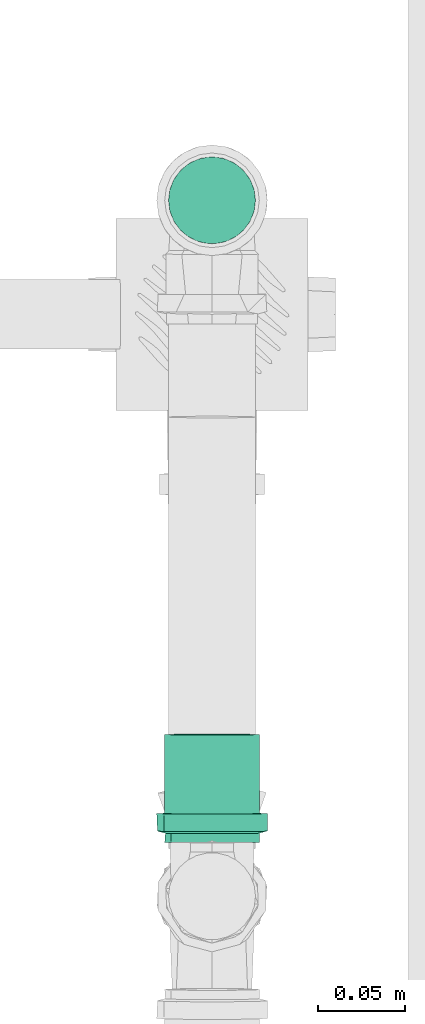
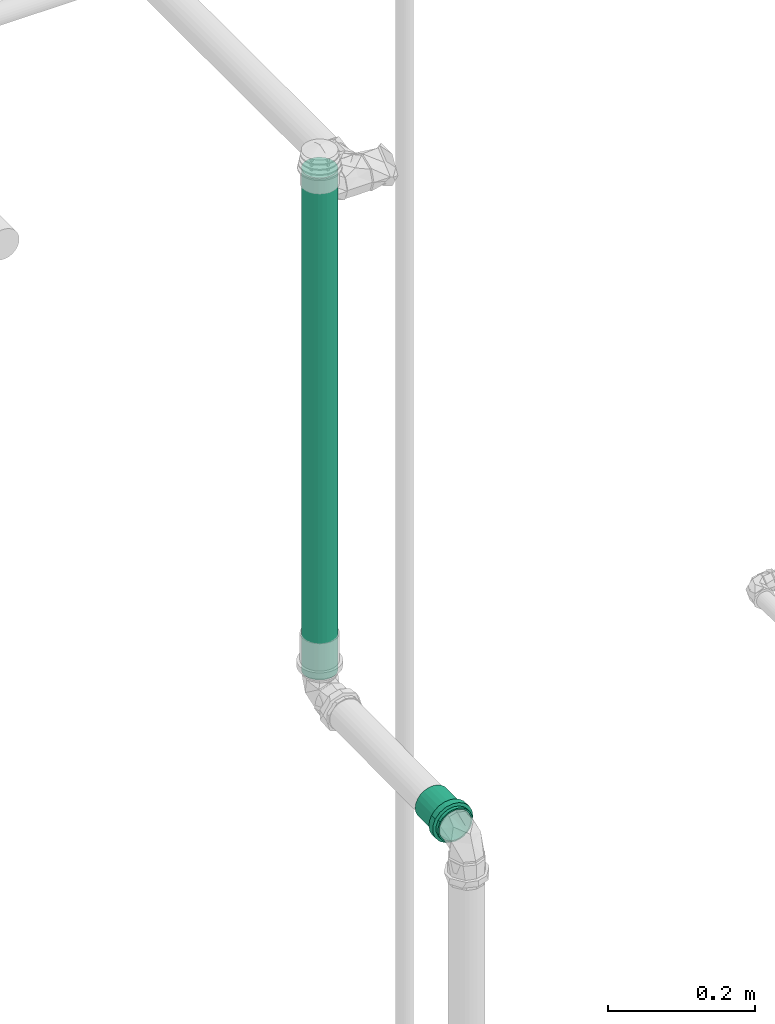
# One storey, part 41 of 589: 1 flow fitting, 1 flow segment.
"""IFC2X3 building model written with IfcOpenShell, lengths in millimetres."""

from ifc_helpers import new_model, entity, si_unit, converted_unit, derived_unit, direction, frame, origin, origin_2d_with_axis, place, context, subcontext, project, spatial, circle, extrude, faceted_brep, source, transform, mapped, material, type_object, type_shapes, element, save


model = new_model("IFC2X3")

# Units and contexts
model_context = context("Model", 3, precision=0.01, world=origin(), true_north=direction((6.123031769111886e-17, 1.0)))
body_context = subcontext(model_context, "Body", "Model", "MODEL_VIEW")
ifc_project = project(units=[si_unit("LENGTHUNIT", "METRE", prefix="MILLI"), si_unit("AREAUNIT", "SQUARE_METRE"), si_unit("VOLUMEUNIT", "CUBIC_METRE"), converted_unit("PLANEANGLEUNIT", "DEGREE", entity("IfcRatioMeasure", 0.017453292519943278), si_unit("PLANEANGLEUNIT", "RADIAN"), dimensions=[0, 0, 0, 0, 0, 0, 0]), si_unit("MASSUNIT", "GRAM", prefix="KILO"), derived_unit("MASSDENSITYUNIT", [(si_unit("MASSUNIT", "GRAM", prefix="KILO"), 1), (si_unit("LENGTHUNIT", "METRE"), -3)]), derived_unit("IONCONCENTRATIONUNIT", [(si_unit("MASSUNIT", "GRAM", prefix="KILO"), 1), (si_unit("LENGTHUNIT", "METRE"), -3)]), derived_unit("MOMENTOFINERTIAUNIT", [(si_unit("LENGTHUNIT", "METRE"), 4)]), si_unit("TIMEUNIT", "SECOND"), si_unit("FREQUENCYUNIT", "HERTZ"), si_unit("THERMODYNAMICTEMPERATUREUNIT", "DEGREE_CELSIUS"), derived_unit("THERMALTRANSMITTANCEUNIT", [(si_unit("MASSUNIT", "GRAM", prefix="KILO"), 1), (si_unit("THERMODYNAMICTEMPERATUREUNIT", "KELVIN"), -1), (si_unit("TIMEUNIT", "SECOND"), -3)]), derived_unit("THERMALCONDUCTANCEUNIT", [(si_unit("MASSUNIT", "GRAM", prefix="KILO"), 1), (si_unit("THERMODYNAMICTEMPERATUREUNIT", "KELVIN"), -1), (si_unit("TIMEUNIT", "SECOND"), -3), (si_unit("LENGTHUNIT", "METRE"), 1)]), derived_unit("VOLUMETRICFLOWRATEUNIT", [(si_unit("LENGTHUNIT", "METRE"), 3), (si_unit("TIMEUNIT", "SECOND"), -1)]), derived_unit("MASSFLOWRATEUNIT", [(si_unit("MASSUNIT", "GRAM", prefix="KILO"), 1), (si_unit("TIMEUNIT", "SECOND"), -1)]), derived_unit("ROTATIONALFREQUENCYUNIT", [(si_unit("TIMEUNIT", "SECOND"), -1)]), si_unit("ELECTRICCURRENTUNIT", "AMPERE"), si_unit("ELECTRICVOLTAGEUNIT", "VOLT"), si_unit("POWERUNIT", "WATT"), si_unit("FORCEUNIT", "NEWTON", prefix="KILO"), si_unit("ILLUMINANCEUNIT", "LUX"), si_unit("LUMINOUSFLUXUNIT", "LUMEN"), si_unit("LUMINOUSINTENSITYUNIT", "CANDELA"), derived_unit("USERDEFINED", [(si_unit("MASSUNIT", "GRAM", prefix="KILO"), -1), (si_unit("LENGTHUNIT", "METRE"), -2), (si_unit("TIMEUNIT", "SECOND"), 3), (si_unit("LUMINOUSFLUXUNIT", "LUMEN"), 1)]), derived_unit("USERDEFINED", [(si_unit("MASSUNIT", "GRAM", prefix="KILO"), 1), (si_unit("TIMEUNIT", "SECOND"), -3), (si_unit("LENGTHUNIT", "METRE"), 3), (si_unit("ELECTRICCURRENTUNIT", "AMPERE"), -2)]), derived_unit("SOUNDPOWERUNIT", [(si_unit("MASSUNIT", "GRAM", prefix="KILO"), 1), (si_unit("TIMEUNIT", "SECOND"), -3), (si_unit("LENGTHUNIT", "METRE"), 2)]), derived_unit("SOUNDPRESSUREUNIT", [(si_unit("MASSUNIT", "GRAM", prefix="KILO"), 1), (si_unit("LENGTHUNIT", "METRE"), -1), (si_unit("TIMEUNIT", "SECOND"), -2)]), derived_unit("LINEARVELOCITYUNIT", [(si_unit("LENGTHUNIT", "METRE"), 1), (si_unit("TIMEUNIT", "SECOND"), -1)]), si_unit("PRESSUREUNIT", "PASCAL"), derived_unit("USERDEFINED", [(si_unit("MASSUNIT", "GRAM", prefix="KILO"), 1), (si_unit("LENGTHUNIT", "METRE"), -2), (si_unit("TIMEUNIT", "SECOND"), -2)]), derived_unit("LINEARFORCEUNIT", [(si_unit("MASSUNIT", "GRAM", prefix="KILO"), 1), (si_unit("TIMEUNIT", "SECOND"), -2)]), derived_unit("PLANARFORCEUNIT", [(si_unit("MASSUNIT", "GRAM", prefix="KILO"), 1), (si_unit("LENGTHUNIT", "METRE"), -1), (si_unit("TIMEUNIT", "SECOND"), -2)]), derived_unit("SPECIFICHEATCAPACITYUNIT", [(si_unit("THERMODYNAMICTEMPERATUREUNIT", "KELVIN"), -1), (si_unit("LENGTHUNIT", "METRE"), 2), (si_unit("TIMEUNIT", "SECOND"), -2)]), derived_unit("HEATINGVALUEUNIT", [(si_unit("LENGTHUNIT", "METRE"), 2), (si_unit("TIMEUNIT", "SECOND"), -2)]), derived_unit("VAPORPERMEABILITYUNIT", [(si_unit("LENGTHUNIT", "METRE"), -1), (si_unit("TIMEUNIT", "SECOND"), 1)]), derived_unit("DYNAMICVISCOSITYUNIT", [(si_unit("MASSUNIT", "GRAM", prefix="KILO"), 1), (si_unit("TIMEUNIT", "SECOND"), -1), (si_unit("LENGTHUNIT", "METRE"), -1)]), derived_unit("THERMALEXPANSIONCOEFFICIENTUNIT", [(si_unit("THERMODYNAMICTEMPERATUREUNIT", "KELVIN"), -1)]), derived_unit("MODULUSOFELASTICITYUNIT", [(si_unit("MASSUNIT", "GRAM", prefix="KILO"), 1), (si_unit("LENGTHUNIT", "METRE"), -1), (si_unit("TIMEUNIT", "SECOND"), -2)]), derived_unit("ISOTHERMALMOISTURECAPACITYUNIT", [(si_unit("LENGTHUNIT", "METRE"), 3), (si_unit("MASSUNIT", "GRAM", prefix="KILO"), -1)]), derived_unit("MOISTUREDIFFUSIVITYUNIT", [(si_unit("TIMEUNIT", "SECOND"), -1), (si_unit("LENGTHUNIT", "METRE"), 2)])], contexts=[model_context])

# Site, building, storey
site_placement = place(None, origin())
site = spatial("IfcSite", under=ifc_project, at=site_placement, Name="Default", CompositionType="ELEMENT")
building_placement = place(site_placement, origin())
building = spatial("IfcBuilding", under=site, at=building_placement, CompositionType="ELEMENT")
storey_placement = place(building_placement, frame((0.0, 0.0, 100.0)))
storey = spatial("IfcBuildingStorey", under=building, at=storey_placement, Name="TÉRREO", CompositionType="ELEMENT", Elevation=100.0)

# Flow segment
pipe_segment_type = type_object("IfcPipeSegmentType", Name="Tipos de tubos:PVC Esgoto Série Normal", PredefinedType="NOTDEFINED")
flow_segment_placement = place(storey_placement, origin())
element("IfcFlowSegment", 1, at=flow_segment_placement, inside=storey, type_object=pipe_segment_type, Name="Tipos de tubos:PVC Esgoto Série Normal", ObjectType="Tipos de tubos:PVC Esgoto Série Normal", context=body_context, shape_type="SweptSolid", body=[
    extrude(circle(Radius=25.0, at=origin_2d_with_axis()), frame((1855.1564123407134, -9657.272915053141, 3011.6345858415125), z_axis=(0.0, 0.0, 1.0), x_axis=(-1.0, 0.0, 0.0)), (0.0, 0.0, 1.0), 834.5587000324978),
])

# Flow fitting
ifc_material = material(Name="PVC Série Normal")
pipe_fitting_type = type_object("IfcPipeFittingType", Name="PVC Esgoto_Luva Simples para Conexão_Rodrigo MEP:Standard", PredefinedType="NOTDEFINED", material=ifc_material)
shared_shape = source(origin(), body_context, "Body", "Brep", [
    faceted_brep([(16.599999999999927, -13.599999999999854, -23.555890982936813), (16.599999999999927, -22.485995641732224, -22.485995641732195), (16.599999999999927, -15.900000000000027, -27.53960784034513), (16.599999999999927, -19.233304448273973, -19.233304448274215), (16.599999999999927, -7.039878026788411, -26.273182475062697), (16.599999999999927, -27.539607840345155, -15.899999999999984), (16.599999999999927, -23.55589098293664, -13.600000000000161), (16.599999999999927, -26.273182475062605, -7.03987802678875), (16.599999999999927, -30.716441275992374, -8.230445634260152), (16.599999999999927, -27.2, 0.0), (16.599999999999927, -31.8, 0.0), (16.599999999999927, -26.273182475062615, 7.0398780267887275), (16.599999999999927, -30.71644127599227, 8.23044563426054), (16.599999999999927, -23.555890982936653, 13.60000000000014), (16.599999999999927, -27.539607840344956, 15.900000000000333), (16.599999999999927, -19.233304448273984, 19.2333044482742), (16.599999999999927, -22.485995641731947, 22.48599564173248), (16.599999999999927, -13.599999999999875, 23.555890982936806), (16.599999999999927, -15.899999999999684, 27.53960784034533), (16.599999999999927, -7.039878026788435, 26.27318247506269), (16.599999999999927, -8.230445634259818, 30.716441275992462), (16.599999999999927, 0.0, 27.2), (16.599999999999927, 0.0, 31.8), (16.599999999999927, 7.039878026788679, 26.273182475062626), (16.599999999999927, 8.230445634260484, 30.716441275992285), (16.599999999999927, 13.600000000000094, 23.555890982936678), (16.599999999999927, 15.900000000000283, 27.53960784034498), (16.599999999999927, 19.23330444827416, 19.233304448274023), (16.599999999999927, 22.485995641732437, 22.48599564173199), (16.599999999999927, 23.55589098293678, 13.59999999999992), (16.599999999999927, 27.539607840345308, 15.899999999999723), (16.599999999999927, 30.71644127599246, 8.230445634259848), (16.599999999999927, 26.273182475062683, 7.039878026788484), (16.599999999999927, 31.8, 0.0), (16.599999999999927, 27.2, 0.0), (16.599999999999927, 30.71644127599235, -8.23044563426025), (16.599999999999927, 26.273182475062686, -7.03987802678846), (16.599999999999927, 27.53960784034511, -15.90000000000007), (16.599999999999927, 23.55589098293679, -13.599999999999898), (16.599999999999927, 22.485995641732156, -22.485995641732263), (16.599999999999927, 19.233304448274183, -19.233304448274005), (16.599999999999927, 15.899999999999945, -27.53960784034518), (16.599999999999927, 13.600000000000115, -23.555890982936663), (16.599999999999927, 8.230445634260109, -30.716441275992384), (16.599999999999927, 7.039878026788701, -26.273182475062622), (16.599999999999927, 0.0, -31.8), (16.599999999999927, 0.0, -27.2), (16.599999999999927, -8.2304456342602, -30.71644127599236), (6.5000000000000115, 31.8, 0.0), (6.500000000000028, 30.243828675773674, 9.826028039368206), (6.500000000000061, 18.6933889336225, 25.72541953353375), (6.500000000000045, 25.727620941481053, 18.69035903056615), (6.500000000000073, 9.829589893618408, 30.24267122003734), (6.50000000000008, 0.0037451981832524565, 31.799999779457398), (6.5000000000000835, -9.822466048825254, 30.244985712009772), (6.500000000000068, -25.723217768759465, 18.696418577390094), (6.50000000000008, -18.687328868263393, 25.729821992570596), (6.50000000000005, -30.24167131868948, 9.832665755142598), (6.5000000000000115, -31.8, 0.0), (6.499999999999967, -24.364200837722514, -20.435892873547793), (6.499999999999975, -27.12442527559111, -15.652735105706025), (6.499999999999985, -29.884649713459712, -10.869577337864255), (6.499999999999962, -20.134403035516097, -23.986420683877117), (6.4999999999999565, -15.904605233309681, -27.53694849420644), (6.499999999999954, -10.715490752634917, -29.42653259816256), (6.499999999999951, -5.526376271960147, -31.31611670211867), (6.499999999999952, -0.003927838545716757, -31.316809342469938), (6.499999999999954, 5.518520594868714, -31.317501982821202), (6.499999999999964, 15.897697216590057, -27.54093722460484), (6.499999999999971, 20.128385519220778, -23.99147055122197), (6.499999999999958, 10.70810890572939, -29.42921960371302), (6.499999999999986, 27.12049800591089, -15.659538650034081), (6.499999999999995, 29.881922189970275, -10.877073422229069), (6.499999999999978, 24.359073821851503, -20.442003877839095), (6.499999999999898, 30.69617385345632, -6.259599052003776), (6.500000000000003, 30.84096109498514, -5.438536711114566), (62.0, -12.499999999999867, -21.650635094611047), (62.0, -19.233304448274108, -19.23330444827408), (62.0, -13.600000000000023, -23.55589098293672), (62.0, -6.470476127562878, -24.14814565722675), (62.0, -17.677669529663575, -17.677669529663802), (62.0, -23.55589098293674, -13.599999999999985), (62.0, -21.65063509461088, -12.50000000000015), (62.0, -24.148145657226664, -6.470476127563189), (62.0, -26.27318247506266, -7.039878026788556), (62.0, -25.0, 0.0), (62.0, -27.2, 0.0), (62.0, -24.148145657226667, 6.4704761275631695), (62.0, -26.273182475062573, 7.03987802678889), (62.0, -21.650635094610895, 12.500000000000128), (62.0, -23.555890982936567, 13.600000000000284), (62.0, -17.67766952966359, 17.67766952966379), (62.0, -19.233304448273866, 19.233304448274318), (62.0, -12.499999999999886, 21.650635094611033), (62.0, -13.59999999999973, 23.55589098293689), (62.0, -6.4704761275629, 24.14814565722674), (62.0, -7.039878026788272, 26.273182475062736), (62.0, 0.0, 25.0), (62.0, 0.0, 27.2), (62.0, 6.470476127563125, 24.148145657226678), (62.0, 7.039878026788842, 26.273182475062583), (62.0, 12.500000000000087, 21.650635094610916), (62.0, 13.600000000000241, 23.555890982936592), (62.0, 17.677669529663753, 17.677669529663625), (62.0, 19.233304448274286, 19.2333044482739), (62.0, 21.65063509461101, 12.499999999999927), (62.0, 23.555890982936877, 13.599999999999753), (62.0, 26.27318247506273, 7.039878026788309), (62.0, 24.14814565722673, 6.470476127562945), (62.0, 27.2, 0.0), (62.0, 25.0, 0.0), (62.0, 26.27318247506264, -7.0398780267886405), (62.0, 24.148145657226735, -6.470476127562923), (62.0, 23.5558909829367, -13.600000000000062), (62.0, 21.650635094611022, -12.499999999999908), (62.0, 19.233304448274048, -19.233304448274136), (62.0, 17.67766952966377, -17.677669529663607), (62.0, 13.599999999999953, -23.555890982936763), (62.0, 12.500000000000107, -21.650635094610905), (62.0, 7.039878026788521, -26.27318247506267), (62.0, 6.470476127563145, -24.148145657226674), (62.0, 0.0, -27.2), (62.0, 0.0, -25.0), (62.0, -7.039878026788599, -26.273182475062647), (0.0, -13.600000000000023, -23.55589098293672), (0.0, -19.233304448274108, -19.23330444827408), (0.0, -12.499999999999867, -21.650635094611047), (0.0, -6.470476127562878, -24.14814565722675), (0.0, -7.039878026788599, -26.273182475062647), (0.0, -17.677669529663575, -17.677669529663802), (0.0, -23.55589098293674, -13.599999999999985), (0.0, -21.65063509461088, -12.50000000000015), (0.0, -24.148145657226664, -6.470476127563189), (0.0, -26.27318247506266, -7.039878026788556), (0.0, -25.0, 0.0), (0.0, -27.2, 0.0), (0.0, -24.148145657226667, 6.4704761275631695), (0.0, -26.273182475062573, 7.03987802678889), (0.0, -21.650635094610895, 12.500000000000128), (0.0, -23.555890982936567, 13.600000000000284), (0.0, -17.67766952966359, 17.67766952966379), (0.0, -19.233304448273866, 19.233304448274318), (0.0, -12.499999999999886, 21.650635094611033), (0.0, -13.59999999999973, 23.55589098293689), (0.0, -6.4704761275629, 24.14814565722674), (0.0, -7.039878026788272, 26.273182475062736), (0.0, 0.0, 25.0), (0.0, 0.0, 27.2), (0.0, 6.470476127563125, 24.148145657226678), (0.0, 7.039878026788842, 26.273182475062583), (0.0, 12.500000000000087, 21.650635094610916), (0.0, 13.600000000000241, 23.555890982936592), (0.0, 17.677669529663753, 17.677669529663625), (0.0, 19.233304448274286, 19.2333044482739), (0.0, 21.65063509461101, 12.499999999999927), (0.0, 23.555890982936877, 13.599999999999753), (0.0, 26.27318247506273, 7.039878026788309), (0.0, 24.14814565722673, 6.470476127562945), (0.0, 27.2, 0.0), (0.0, 25.0, 0.0), (0.0, 26.27318247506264, -7.0398780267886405), (0.0, 24.148145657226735, -6.470476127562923), (0.0, 23.5558909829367, -13.600000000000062), (0.0, 21.650635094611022, -12.499999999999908), (0.0, 19.233304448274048, -19.233304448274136), (0.0, 17.67766952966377, -17.677669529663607), (0.0, 13.599999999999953, -23.555890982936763), (0.0, 12.500000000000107, -21.650635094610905), (0.0, 7.039878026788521, -26.27318247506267), (0.0, 6.470476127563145, -24.148145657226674), (0.0, 0.0, -27.2), (0.0, 0.0, -25.0), (5.299999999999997, 27.2, 0.0), (5.300000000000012, 25.868346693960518, 8.406464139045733), (5.300000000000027, 22.003776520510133, 15.989803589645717), (5.30000000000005, 8.400454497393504, 25.870298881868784), (5.300000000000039, 15.9846915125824, 22.007490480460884), (5.300000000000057, -0.00631876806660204, 27.199999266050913), (5.30000000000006, -8.412473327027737, 25.866393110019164), (5.3000000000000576, -15.99491480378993, 22.00006137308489), (5.300000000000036, -25.8722496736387, 8.394444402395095), (5.30000000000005, -22.011203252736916, 15.97957857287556), (5.299999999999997, -27.2, 0.0), (5.299999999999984, -25.56171296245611, -9.29724854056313), (5.2999999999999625, -17.22187932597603, -20.516686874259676), (5.299999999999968, -20.839819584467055, -17.47975742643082), (5.299999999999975, -23.200766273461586, -13.388502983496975), (5.2999999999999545, -9.165451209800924, -25.169864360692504), (5.299999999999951, -4.726963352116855, -26.78611239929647), (5.299999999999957, -13.603939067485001, -23.553616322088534), (5.29999999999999, 26.379689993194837, -4.651830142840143), (5.299999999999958, 13.5980303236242, -23.55702806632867), (5.299999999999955, 9.159137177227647, -25.17216267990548), (5.299999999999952, 4.720244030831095, -26.787297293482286), (5.299999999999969, 20.83543421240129, -17.484984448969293), (5.299999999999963, 17.216732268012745, -20.52100625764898), (5.299999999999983, 25.559379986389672, -9.303660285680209), (5.299999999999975, 23.197407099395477, -13.394322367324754), (5.299999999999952, -0.0033596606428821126, -26.78670484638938), (39.0, 25.0, 0.0), (39.0, -25.0, 0.0)], [[[0, 1, 2]], [[3, 1, 0]], [[4, 0, 2]], [[1, 3, 5]], [[5, 3, 6]], [[5, 6, 7]], [[8, 5, 7]], [[9, 8, 7]], [[10, 8, 9]], [[10, 9, 11]], [[12, 10, 11]], [[12, 11, 13]], [[14, 12, 13]], [[14, 13, 15]], [[15, 16, 14]], [[15, 17, 16]], [[17, 18, 16]], [[19, 18, 17]], [[18, 19, 20]], [[21, 20, 19]], [[22, 20, 21]], [[23, 22, 21]], [[24, 22, 23]], [[25, 24, 23]], [[24, 25, 26]], [[25, 27, 26]], [[28, 26, 27]], [[28, 27, 29]], [[28, 29, 30]], [[30, 29, 31]], [[31, 29, 32]], [[33, 31, 32]], [[33, 32, 34]], [[33, 34, 35]], [[34, 36, 35]], [[37, 35, 36]], [[37, 36, 38]], [[39, 37, 38]], [[40, 39, 38]], [[40, 41, 39]], [[42, 41, 40]], [[43, 41, 42]], [[42, 44, 43]], [[43, 44, 45]], [[44, 46, 45]], [[46, 4, 47]], [[45, 46, 47]], [[2, 47, 4]], [[33, 48, 31]], [[31, 49, 30]], [[26, 28, 50]], [[51, 28, 30]], [[24, 26, 52]], [[49, 51, 30]], [[31, 48, 49]], [[50, 52, 26]], [[28, 51, 50]], [[52, 53, 24]], [[53, 22, 24]], [[20, 53, 54]], [[20, 54, 18]], [[14, 16, 55]], [[56, 16, 18]], [[12, 14, 57]], [[56, 55, 16]], [[18, 54, 56]], [[57, 58, 12]], [[14, 55, 57]], [[58, 10, 12]], [[22, 53, 20]], [[8, 10, 58]], [[59, 1, 5]], [[60, 59, 5, 61]], [[2, 62, 63]], [[8, 58, 61]], [[2, 63, 64]], [[47, 2, 64]], [[64, 65, 47]], [[62, 1, 59]], [[66, 67, 45, 65]], [[41, 68, 69]], [[1, 62, 2]], [[39, 41, 69]], [[8, 61, 5]], [[43, 45, 67]], [[68, 41, 70]], [[71, 72, 37, 73]], [[43, 70, 41]], [[72, 35, 37]], [[69, 73, 39]], [[70, 43, 67]], [[47, 65, 45]], [[39, 73, 37]], [[35, 72, 74, 75]], [[33, 75, 48]], [[35, 75, 33]], [[76, 77, 78]], [[79, 76, 78]], [[80, 77, 76]], [[77, 80, 81]], [[82, 81, 80]], [[83, 81, 82]], [[81, 83, 84]], [[83, 85, 84]], [[86, 84, 85]], [[86, 85, 87]], [[87, 88, 86]], [[89, 88, 87]], [[88, 89, 90]], [[91, 90, 89]], [[92, 90, 91]], [[92, 91, 93]], [[93, 94, 92]], [[95, 94, 93]], [[94, 95, 96]], [[97, 96, 95]], [[98, 96, 97]], [[99, 98, 97]], [[100, 98, 99]], [[101, 100, 99]], [[100, 101, 102]], [[101, 103, 102]], [[104, 102, 103]], [[103, 105, 104]], [[104, 105, 106]], [[107, 106, 105]], [[105, 108, 107]], [[107, 108, 109]], [[108, 110, 109]], [[109, 110, 111]], [[110, 112, 111]], [[113, 111, 112]], [[112, 114, 113]], [[115, 113, 114]], [[116, 115, 114]], [[116, 117, 115]], [[118, 117, 116]], [[119, 117, 118]], [[118, 120, 119]], [[119, 120, 121]], [[120, 122, 121]], [[122, 79, 123]], [[121, 122, 123]], [[78, 123, 79]], [[124, 125, 126]], [[124, 126, 127]], [[127, 128, 124]], [[126, 125, 129]], [[130, 129, 125]], [[129, 130, 131]], [[131, 130, 132]], [[133, 132, 130]], [[133, 134, 132]], [[134, 133, 135]], [[136, 134, 135]], [[135, 137, 136]], [[136, 137, 138]], [[139, 138, 137]], [[138, 139, 140]], [[140, 139, 141]], [[142, 140, 141]], [[141, 143, 142]], [[142, 143, 144]], [[145, 144, 143]], [[144, 145, 146]], [[146, 145, 147]], [[146, 147, 148]], [[148, 147, 149]], [[148, 149, 150]], [[151, 150, 149]], [[151, 152, 150]], [[152, 151, 153]], [[153, 154, 152]], [[155, 154, 153]], [[154, 155, 156]], [[156, 157, 154]], [[158, 157, 156]], [[158, 159, 157]], [[160, 159, 158]], [[160, 161, 159]], [[161, 160, 162]], [[162, 163, 161]], [[163, 162, 164]], [[163, 164, 165]], [[164, 166, 165]], [[165, 166, 167]], [[167, 166, 168]], [[168, 169, 167]], [[170, 169, 168]], [[128, 171, 170]], [[170, 171, 169]], [[128, 127, 171]], [[172, 156, 173]], [[173, 155, 174]], [[175, 176, 151]], [[175, 149, 177]], [[153, 176, 174]], [[177, 149, 147]], [[156, 155, 173]], [[172, 158, 156]], [[32, 107, 109, 34]], [[153, 151, 176]], [[174, 155, 153]], [[151, 149, 175]], [[177, 145, 178]], [[178, 143, 179]], [[180, 181, 139]], [[141, 181, 179]], [[182, 180, 137]], [[143, 141, 179]], [[178, 145, 143]], [[139, 137, 180]], [[181, 141, 139]], [[137, 135, 182]], [[86, 88, 11, 9]], [[147, 145, 177]], [[183, 182, 133]], [[184, 185, 125]], [[186, 183, 130, 185]], [[187, 128, 188]], [[183, 133, 130]], [[182, 135, 133]], [[86, 9, 7, 84]], [[128, 187, 124]], [[124, 189, 184]], [[125, 185, 130]], [[160, 158, 190]], [[166, 191, 192]], [[187, 189, 124]], [[168, 166, 192]], [[188, 128, 170]], [[125, 124, 184]], [[192, 193, 168]], [[194, 195, 164]], [[190, 196, 160]], [[197, 194, 162, 196]], [[160, 196, 162]], [[164, 195, 166]], [[198, 188, 170, 193]], [[168, 193, 170]], [[194, 164, 162]], [[166, 195, 191]], [[158, 172, 190]], [[199, 110, 108, 157, 159]], [[103, 101, 150, 152]], [[152, 154, 105, 103]], [[154, 157, 108, 105]], [[148, 150, 101, 99]], [[99, 97, 146, 148]], [[144, 146, 97, 95]], [[93, 142, 144, 95]], [[89, 87, 136, 138]], [[138, 140, 91, 89]], [[140, 142, 93, 91]], [[200, 134, 136, 87, 85]], [[85, 83, 132, 134, 200]], [[80, 76, 126, 129]], [[132, 83, 82, 131]], [[80, 129, 131, 82]], [[127, 126, 76, 79]], [[79, 122, 171, 127]], [[169, 171, 122, 120]], [[118, 167, 169, 120]], [[114, 112, 161, 163]], [[163, 165, 116, 114]], [[165, 167, 118, 116]], [[199, 159, 161, 112, 110]], [[190, 172, 48, 75, 74, 72, 196]], [[197, 196, 72, 71, 73, 194]], [[195, 194, 73, 69, 68, 191]], [[68, 70, 67, 193, 192, 191]], [[66, 65, 188, 198, 193, 67]], [[63, 189, 187, 188, 65, 64]], [[58, 182, 183, 61]], [[59, 60, 61, 183, 186, 185]], [[63, 62, 59, 185, 184, 189]], [[57, 181, 180]], [[54, 177, 178]], [[56, 178, 179]], [[55, 179, 181]], [[58, 180, 182]], [[58, 57, 180]], [[181, 57, 55]], [[55, 56, 179]], [[56, 54, 178]], [[54, 53, 177]], [[52, 176, 175]], [[49, 172, 173]], [[51, 173, 174]], [[50, 174, 176]], [[52, 50, 176]], [[175, 53, 52]], [[50, 51, 174]], [[173, 51, 49]], [[172, 49, 48]], [[177, 53, 175]], [[106, 107, 32, 29]], [[102, 104, 27, 25]], [[27, 104, 106, 29]], [[100, 102, 25, 23]], [[23, 21, 98, 100]], [[94, 96, 19, 17]], [[94, 17, 15, 92]], [[88, 90, 13, 11]], [[13, 90, 92, 15]], [[98, 21, 19, 96]], [[84, 7, 6, 81]], [[0, 4, 123, 78]], [[77, 81, 6, 3]], [[77, 3, 0, 78]], [[4, 46, 121, 123]], [[117, 119, 44, 42]], [[117, 42, 40, 115]], [[111, 113, 38, 36]], [[38, 113, 115, 40]], [[109, 111, 36, 34]], [[121, 46, 44, 119]]]),
])
type_shapes(pipe_fitting_type, [shared_shape])
flow_fitting_placement = place(storey_placement, frame((1855.1564123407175, -10026.333162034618, 2977.002683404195), z_axis=(1.0, 0.0, 0.0), x_axis=(0.0, 0.9999500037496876, 0.009999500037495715)))
element("IfcFlowFitting", 2, at=flow_fitting_placement, inside=storey, type_object=pipe_fitting_type, material=ifc_material, Name="PVC Esgoto_Luva Simples para Conexão_Rodrigo MEP:Standard", ObjectType="PVC Esgoto_Luva Simples para Conexão_Rodrigo MEP:Standard", context=body_context, shape_type="MappedRepresentation", body=[
    mapped(shared_shape, transform((0.0, 0.0, 0.0), scale=1.0)),
])

save(model, "model.ifc")
